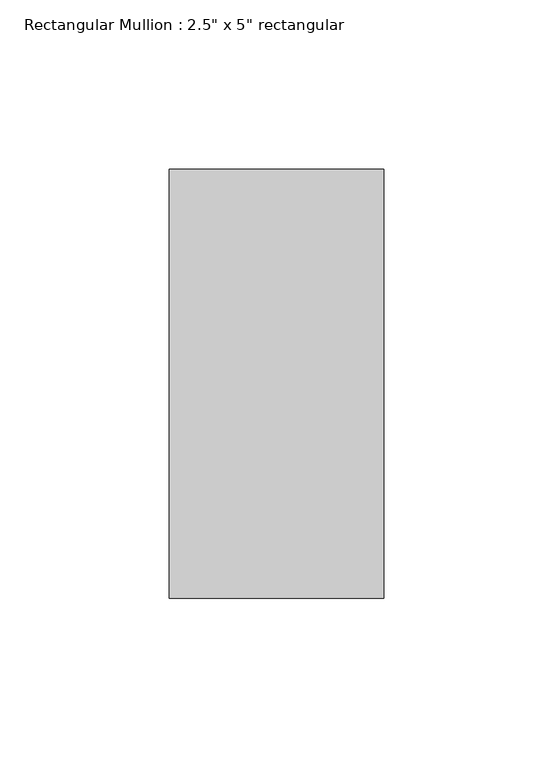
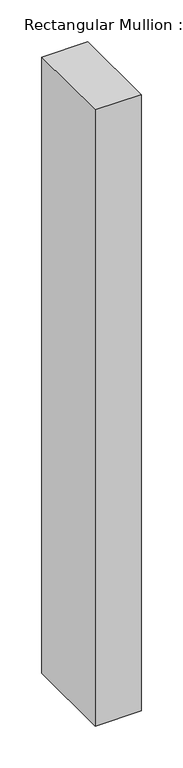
"""IFC4 building model written with IfcOpenShell, lengths in millimetres: member geometry."""

from ifc_helpers import new_model, si_unit, frame, origin, place, context, project, spatial, polyline, outline, extrude, source, transform, mapped, element, save


def member_280eb951(model_context):
    return source(origin(), model_context, "Body", "SweptSolid", [
        extrude(outline(polyline([(0.0, 63.5), (0.0, -63.5), (-63.5, -63.5), (-63.5, 63.5), (0.0, 63.5)])), frame((0.0, 0.0, -898.3374862), z_axis=(0.0, 0.0, 1.0), x_axis=(1.0, 0.0, 0.0)), (0.0, 0.0, 1.0), 898.3374862),
    ])


if __name__ == "__main__":
    model = new_model("IFC4")
    model_context = context("Model", 3, world=origin())
    ifc_project = project(units=[si_unit("LENGTHUNIT", "METRE", prefix="MILLI")], contexts=[model_context])
    site = spatial("IfcSite", under=ifc_project)
    building = spatial("IfcBuilding", under=site)
    placement = place(None, origin())
    member_shape = member_280eb951(model_context)
    element("IfcMember", 1, ObjectType="Rectangular Mullion : 2.5\" x 5\" rectangular", at=placement, inside=building, context=model_context, shape_type="MappedRepresentation", body=[
        mapped(member_shape, transform((0.0, 0.0, 0.0), x_axis=(1.0, 0.0, 0.0), y_axis=(0.0, 1.0, 0.0), z_axis=(0.0, 0.0, 1.0))),
    ])
    save(model, "model.ifc")
